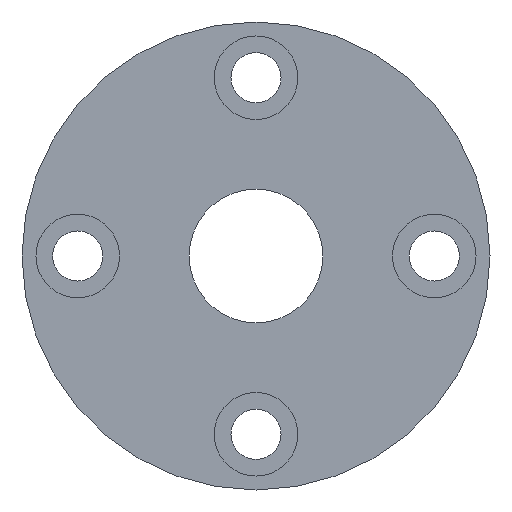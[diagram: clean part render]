
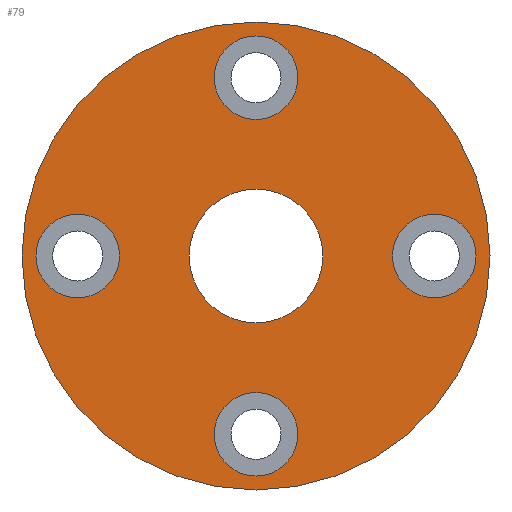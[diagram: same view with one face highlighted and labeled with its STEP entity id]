
A CAD part, left-side view. The second image highlights one B-rep face of the part: STEP entity #79.
In plain terms, the highlighted planar face has unit normal (-1, 0, 0).
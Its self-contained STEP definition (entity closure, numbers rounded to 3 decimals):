
#79 = ADVANCED_FACE( '', ( #110, #111, #112, #113, #114, #115 ), #116, .T. );
#110 = FACE_BOUND( '', #172, .T. );
#111 = FACE_BOUND( '', #173, .T. );
#112 = FACE_BOUND( '', #174, .T. );
#113 = FACE_BOUND( '', #175, .T. );
#114 = FACE_BOUND( '', #176, .T. );
#115 = FACE_OUTER_BOUND( '', #177, .T. );
#116 = PLANE( '', #178 );
#172 = EDGE_LOOP( '', ( #242 ) );
#173 = EDGE_LOOP( '', ( #243 ) );
#174 = EDGE_LOOP( '', ( #244 ) );
#175 = EDGE_LOOP( '', ( #245 ) );
#176 = EDGE_LOOP( '', ( #246 ) );
#177 = EDGE_LOOP( '', ( #247 ) );
#178 = AXIS2_PLACEMENT_3D( '', #248, #249, #250 );
#242 = ORIENTED_EDGE( '', *, *, #324, .T. );
#243 = ORIENTED_EDGE( '', *, *, #325, .T. );
#244 = ORIENTED_EDGE( '', *, *, #326, .T. );
#245 = ORIENTED_EDGE( '', *, *, #327, .T. );
#246 = ORIENTED_EDGE( '', *, *, #328, .T. );
#247 = ORIENTED_EDGE( '', *, *, #329, .F. );
#248 = CARTESIAN_POINT( '', ( 0., 21., 0. ) );
#249 = DIRECTION( '', ( -1., 0., 0. ) );
#250 = DIRECTION( '', ( 0., 0., 1. ) );
#324 = EDGE_CURVE( '', #354, #354, #355, .T. );
#325 = EDGE_CURVE( '', #356, #356, #357, .F. );
#326 = EDGE_CURVE( '', #358, #358, #359, .T. );
#327 = EDGE_CURVE( '', #360, #360, #361, .T. );
#328 = EDGE_CURVE( '', #362, #362, #363, .T. );
#329 = EDGE_CURVE( '', #364, #364, #365, .T. );
#354 = VERTEX_POINT( '', #398 );
#355 = CIRCLE( '', #399, 6. );
#356 = VERTEX_POINT( '', #400 );
#357 = CIRCLE( '', #401, 3.75 );
#358 = VERTEX_POINT( '', #402 );
#359 = CIRCLE( '', #403, 3.75 );
#360 = VERTEX_POINT( '', #404 );
#361 = CIRCLE( '', #405, 3.75 );
#362 = VERTEX_POINT( '', #406 );
#363 = CIRCLE( '', #407, 3.75 );
#364 = VERTEX_POINT( '', #408 );
#365 = CIRCLE( '', #409, 21. );
#398 = CARTESIAN_POINT( '', ( 0., 0., -6. ) );
#399 = AXIS2_PLACEMENT_3D( '', #450, #451, #452 );
#400 = CARTESIAN_POINT( '', ( 0., 16., 3.75 ) );
#401 = AXIS2_PLACEMENT_3D( '', #453, #454, #455 );
#402 = CARTESIAN_POINT( '', ( 0., 0., 12.25 ) );
#403 = AXIS2_PLACEMENT_3D( '', #456, #457, #458 );
#404 = CARTESIAN_POINT( '', ( 0., 0., -19.75 ) );
#405 = AXIS2_PLACEMENT_3D( '', #459, #460, #461 );
#406 = CARTESIAN_POINT( '', ( 0., -16., -3.75 ) );
#407 = AXIS2_PLACEMENT_3D( '', #462, #463, #464 );
#408 = CARTESIAN_POINT( '', ( 0., 0., -21. ) );
#409 = AXIS2_PLACEMENT_3D( '', #465, #466, #467 );
#450 = CARTESIAN_POINT( '', ( 0., 0., 0. ) );
#451 = DIRECTION( '', ( 1., 0., 0. ) );
#452 = DIRECTION( '', ( 0., 0., -1. ) );
#453 = CARTESIAN_POINT( '', ( 0., 16., 0. ) );
#454 = DIRECTION( '', ( -1., 0., 0. ) );
#455 = DIRECTION( '', ( 0., 0., 1. ) );
#456 = CARTESIAN_POINT( '', ( 0., 0., 16. ) );
#457 = DIRECTION( '', ( 1., 0., 0. ) );
#458 = DIRECTION( '', ( 0., 0., -1. ) );
#459 = CARTESIAN_POINT( '', ( 0., 0., -16. ) );
#460 = DIRECTION( '', ( 1., 0., 0. ) );
#461 = DIRECTION( '', ( 0., 0., -1. ) );
#462 = CARTESIAN_POINT( '', ( 0., -16., 0. ) );
#463 = DIRECTION( '', ( 1., 0., 0. ) );
#464 = DIRECTION( '', ( 0., 0., -1. ) );
#465 = CARTESIAN_POINT( '', ( 0., 0., 0. ) );
#466 = DIRECTION( '', ( 1., 0., 0. ) );
#467 = DIRECTION( '', ( 0., 0., -1. ) );
